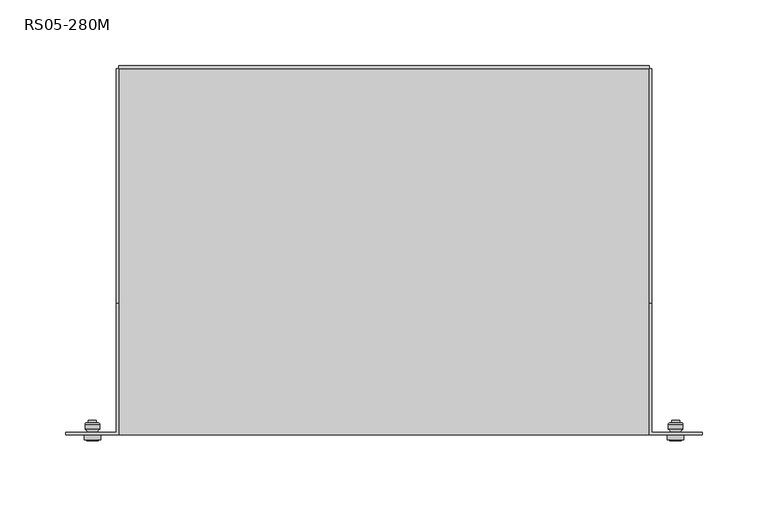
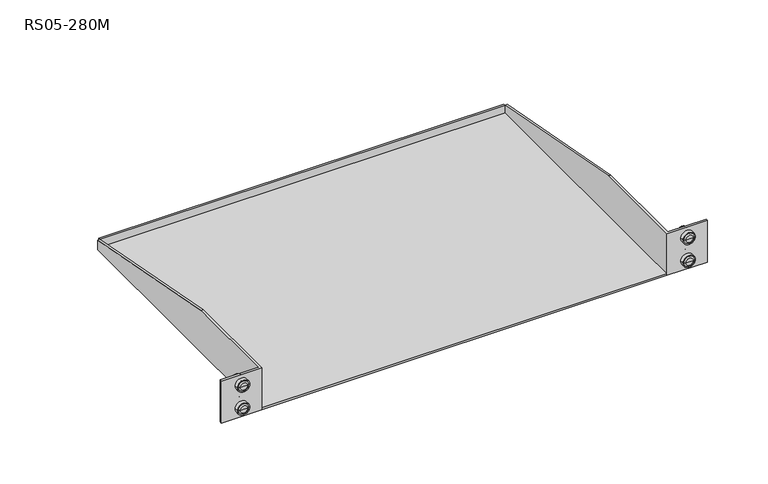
"""IFC4 building model written with IfcOpenShell, lengths in millimetres: proxy geometry, Полки консольные : RS05-280M."""

from ifc_helpers import new_model, si_unit, point, frame, origin, place, context, project, spatial, polyline, circle_curve, ellipse_curve, trimmed, outline, extrude, faceted_brep, source, transform, mapped, element, save
from ifc_brep_helpers import plane_surface, cylinder_surface, revolved_surface, advanced_brep


def rs05_280m_469b61f3(model_context):
    return source(origin(), model_context, "Body", "SolidModel", [
        advanced_brep(
        [(221.0, -144.3500066, 34.0), (217.5000052, -144.3500066, 34.0), (224.4999948, -144.3500066, 34.0), (223.9999986, -128.7499958, 34.0), (218.0000014, -128.7499958, 34.0), (221.0, -128.7499958, 34.0), (223.9999986, -130.7999933, 34.0), (218.0000014, -130.7999933, 34.0), (225.4999942, -130.7999933, 34.0), (216.5000058, -130.7999933, 34.0), (226.4999948, -131.7999994, 34.0), (215.5000052, -131.7999994, 34.0), (226.4999962, -135.7999994, 34.0), (215.5000038, -135.7999994, 34.0), (225.1733431, -137.9999959, 34.0), (216.8266569, -137.9999959, 34.0), (227.2500015, -140.0, 34.0), (214.7499985, -140.0, 34.0), (216.8266569, -140.0, 34.0), (225.1733431, -140.0, 34.0), (227.2500015, -143.4999996, 34.0), (214.7499985, -143.4999996, 34.0), (226.3781586, -143.4999996, 34.0), (215.6218414, -143.4999996, 34.0)],
        [
            (0, 1),
            (1, 2, circle_curve(frame((221.0, -144.3500066, 34.0), z_axis=(0.0, -1.0, 0.0), x_axis=(-1.0, 0.0, 0.0)), 3.4999948)),
            (2, 0),
            (2, 1, circle_curve(frame((221.0, -144.3500066, 34.0), z_axis=(0.0, -1.0, 0.0), x_axis=(-1.0, 0.0, 0.0)), 3.4999948)),
            (3, 4, circle_curve(frame((221.0, -128.7499958, 34.0), z_axis=(0.0, 1.0, 0.0), x_axis=(-1.0, 0.0, 0.0)), 2.9999986)),
            (4, 5),
            (5, 3),
            (4, 3, circle_curve(frame((221.0, -128.7499958, 34.0), z_axis=(0.0, 1.0, 0.0), x_axis=(-1.0, 0.0, 0.0)), 2.9999986)),
            (6, 7, circle_curve(frame((221.0, -130.7999933, 34.0), z_axis=(0.0, 1.0, 0.0), x_axis=(-1.0, 0.0, 0.0)), 2.9999986)),
            (7, 4),
            (3, 6),
            (7, 6, circle_curve(frame((221.0, -130.7999933, 34.0), z_axis=(0.0, 1.0, 0.0), x_axis=(-1.0, 0.0, 0.0)), 2.9999986)),
            (8, 9, circle_curve(frame((221.0, -130.7999933, 34.0), z_axis=(0.0, 1.0, 0.0), x_axis=(-1.0, 0.0, 0.0)), 4.4999942)),
            (9, 7),
            (6, 8),
            (9, 8, circle_curve(frame((221.0, -130.7999933, 34.0), z_axis=(0.0, 1.0, 0.0), x_axis=(-1.0, 0.0, 0.0)), 4.4999942)),
            (10, 11, circle_curve(frame((221.0, -131.7999994, 34.0), z_axis=(0.0, 1.0, 0.0), x_axis=(-1.0, 0.0, 0.0)), 5.4999948)),
            (11, 9, circle_curve(frame((216.5000052, -131.7999994, 34.0), z_axis=(0.0, 0.0, -1.0), x_axis=(1.0, 0.0, 0.0)), 1.0)),
            (8, 10, circle_curve(frame((225.4999948, -131.7999994, 34.0), z_axis=(0.0, 0.0, -1.0), x_axis=(-1.0, 0.0, 0.0)), 1.0)),
            (11, 10, circle_curve(frame((221.0, -131.7999994, 34.0), z_axis=(0.0, 1.0, 0.0), x_axis=(-1.0, 0.0, 0.0)), 5.4999948)),
            (12, 13, circle_curve(frame((221.0, -135.7999994, 34.0), z_axis=(0.0, 1.0, 0.0), x_axis=(-1.0, 0.0, 0.0)), 5.4999962)),
            (13, 11),
            (10, 12),
            (13, 12, circle_curve(frame((221.0, -135.7999994, 34.0), z_axis=(0.0, 1.0, 0.0), x_axis=(-1.0, 0.0, 0.0)), 5.4999962)),
            (14, 15, circle_curve(frame((221.0, -137.9999959, 34.0), z_axis=(0.0, 1.0, 0.0), x_axis=(-1.0, 0.0, 0.0)), 4.1733431)),
            (15, 13, circle_curve(frame((215.5000052, -137.2999994, 34.0), z_axis=(0.0, 0.0, 1.0), x_axis=(1.0, 0.0, 0.0)), 1.5)),
            (12, 14, circle_curve(frame((226.4999948, -137.2999994, 34.0), z_axis=(0.0, 0.0, 1.0), x_axis=(-1.0, 0.0, 0.0)), 1.5)),
            (15, 14, circle_curve(frame((221.0, -137.9999959, 34.0), z_axis=(0.0, 1.0, 0.0), x_axis=(-1.0, 0.0, 0.0)), 4.1733431)),
            (16, 17, circle_curve(frame((221.0, -140.0, 34.0), z_axis=(0.0, 1.0, 0.0), x_axis=(-1.0, 0.0, 0.0)), 6.2500015)),
            (17, 18),
            (18, 19, circle_curve(frame((221.0, -140.0, 34.0), z_axis=(0.0, -1.0, 0.0), x_axis=(-1.0, 0.0, 0.0)), 4.1733431)),
            (19, 16),
            (17, 16, circle_curve(frame((221.0, -140.0, 34.0), z_axis=(0.0, 1.0, 0.0), x_axis=(-1.0, 0.0, 0.0)), 6.2500015)),
            (19, 18, circle_curve(frame((221.0, -140.0, 34.0), z_axis=(0.0, -1.0, 0.0), x_axis=(-1.0, 0.0, 0.0)), 4.1733431)),
            (20, 21, circle_curve(frame((221.0, -143.4999996, 34.0), z_axis=(0.0, 1.0, 0.0), x_axis=(-1.0, 0.0, 0.0)), 6.2500015)),
            (21, 17),
            (16, 20),
            (21, 20, circle_curve(frame((221.0, -143.4999996, 34.0), z_axis=(0.0, 1.0, 0.0), x_axis=(-1.0, 0.0, 0.0)), 6.2500015)),
            (22, 23, circle_curve(frame((221.0, -143.4999996, 34.0), z_axis=(0.0, 1.0, 0.0), x_axis=(-1.0, 0.0, 0.0)), 5.3781586)),
            (23, 21),
            (20, 22),
            (23, 22, circle_curve(frame((221.0, -143.4999996, 34.0), z_axis=(0.0, 1.0, 0.0), x_axis=(-1.0, 0.0, 0.0)), 5.3781586)),
            (1, 23, circle_curve(frame((217.5000052, -141.8499994, 34.0), z_axis=(0.0, 0.0, -1.0), x_axis=(1.0, 0.0, 0.0)), 2.5)),
            (22, 2, circle_curve(frame((224.4999948, -141.8499994, 34.0), z_axis=(0.0, 0.0, -1.0), x_axis=(-1.0, 0.0, 0.0)), 2.5)),
            (18, 15),
            (14, 19),
        ],
        [
            plane_surface(frame((221.0, -144.3500066, 34.0), z_axis=(0.0, -1.0, 0.0), x_axis=(-1.0, 0.0, 0.0))),
            plane_surface(frame((221.0, -128.7499958, 34.0), z_axis=(0.0, 1.0, 0.0), x_axis=(-1.0, 0.0, 0.0))),
            cylinder_surface(frame((221.0, 1860.0, 34.0), z_axis=(0.0, -1.0, 0.0), x_axis=(-1.0, 0.0, 0.0)), 2.9999986),
            plane_surface(frame((221.0, -130.7999933, 34.0), z_axis=(0.0, 1.0, 0.0), x_axis=(-1.0, 0.0, 0.0))),
            revolved_surface(trimmed(ellipse_curve(frame((216.5000052, -131.7999994, 34.0), z_axis=(0.0, 0.0, 1.0), x_axis=(1.0, 0.0, 0.0)), 1.0, 1.0), [point((216.5000052, -130.7999994, 34.0))], [point((215.5000052, -131.7999994, 34.0))], True, "CARTESIAN"), (221.0, 1860.0, 34.0), (0.0, -1.0, 0.0)),
            cylinder_surface(frame((221.0, 1860.0, 34.0), z_axis=(0.0, -1.0, 0.0), x_axis=(-1.0, 0.0, 0.0)), 5.4999962),
            revolved_surface(trimmed(ellipse_curve(frame((215.5000052, -137.2999994, 34.0), z_axis=(0.0, 0.0, -1.0), x_axis=(1.0, 0.0, 0.0)), 1.5, 1.5), [point((215.5000038, -135.7999994, 34.0))], [point((216.8266569, -137.9999959, 34.0))], True, "CARTESIAN"), (221.0, 1860.0, 34.0), (0.0, -1.0, 0.0)),
            plane_surface(frame((221.0, -140.0, 34.0), z_axis=(0.0, 1.0, 0.0), x_axis=(-1.0, 0.0, 0.0))),
            cylinder_surface(frame((221.0, 1860.0, 34.0), z_axis=(0.0, -1.0, 0.0), x_axis=(-1.0, 0.0, 0.0)), 6.2500015),
            plane_surface(frame((221.0, -143.4999996, 34.0), z_axis=(0.0, -1.0, 0.0), x_axis=(-1.0, 0.0, 0.0))),
            revolved_surface(trimmed(ellipse_curve(frame((217.5000052, -141.8499994, 34.0), z_axis=(0.0, 0.0, 1.0), x_axis=(1.0, 0.0, 0.0)), 2.5, 2.5), [point((215.6218414, -143.4999996, 34.0))], [point((217.5000052, -144.3499994, 34.0))], True, "CARTESIAN"), (221.0, 1860.0, 34.0), (0.0, -1.0, 0.0)),
            cylinder_surface(frame((221.0, 1860.0, 34.0), z_axis=(0.0, -1.0, 0.0), x_axis=(-1.0, 0.0, 0.0)), 4.1733431),
        ],
        [
            (0, [[1, 2, 3]]),
            (0, [[-3, 4, -1]]),
            (1, [[5, 6, 7]]),
            (1, [[8, -7, -6]]),
            (2, [[9, 10, -5, 11]]),
            (2, [[12, -11, -8, -10]]),
            (3, [[13, 14, -9, 15]]),
            (3, [[16, -15, -12, -14]]),
            (4, [[17, 18, -13, 19]]),
            (4, [[20, -19, -16, -18]]),
            (5, [[21, 22, -17, 23]]),
            (5, [[24, -23, -20, -22]]),
            (6, [[25, 26, -21, 27]]),
            (6, [[28, -27, -24, -26]]),
            (7, [[29, 30, 31, 32]]),
            (7, [[33, -32, 34, -30]]),
            (8, [[35, 36, -29, 37]]),
            (8, [[38, -37, -33, -36]]),
            (9, [[39, 40, -35, 41]]),
            (9, [[42, -41, -38, -40]]),
            (10, [[-2, 43, -39, 44]]),
            (10, [[-4, -44, -42, -43]]),
            (11, [[-31, 45, -25, 46]]),
            (11, [[-34, -46, -28, -45]]),
        ],
    ),
        advanced_brep(
        [(-221.0, -144.3500066, 34.0), (-224.4999948, -144.3500066, 34.0), (-217.5000052, -144.3500066, 34.0), (-218.0000014, -128.7499958, 34.0), (-223.9999986, -128.7499958, 34.0), (-221.0, -128.7499958, 34.0), (-218.0000014, -130.7999933, 34.0), (-223.9999986, -130.7999933, 34.0), (-216.5000058, -130.7999933, 34.0), (-225.4999942, -130.7999933, 34.0), (-215.5000052, -131.7999994, 34.0), (-226.4999948, -131.7999994, 34.0), (-215.5000038, -135.7999994, 34.0), (-226.4999962, -135.7999994, 34.0), (-216.8266569, -137.9999959, 34.0), (-225.1733431, -137.9999959, 34.0), (-214.7499985, -140.0, 34.0), (-227.2500015, -140.0, 34.0), (-225.1733431, -140.0, 34.0), (-216.8266569, -140.0, 34.0), (-214.7499985, -143.4999996, 34.0), (-227.2500015, -143.4999996, 34.0), (-215.6218414, -143.4999996, 34.0), (-226.3781586, -143.4999996, 34.0)],
        [
            (0, 1),
            (1, 2, circle_curve(frame((-221.0, -144.3500066, 34.0), z_axis=(0.0, -1.0, 0.0), x_axis=(-1.0, 0.0, 0.0)), 3.4999948)),
            (2, 0),
            (2, 1, circle_curve(frame((-221.0, -144.3500066, 34.0), z_axis=(0.0, -1.0, 0.0), x_axis=(-1.0, 0.0, 0.0)), 3.4999948)),
            (3, 4, circle_curve(frame((-221.0, -128.7499958, 34.0), z_axis=(0.0, 1.0, 0.0), x_axis=(-1.0, 0.0, 0.0)), 2.9999986)),
            (4, 5),
            (5, 3),
            (4, 3, circle_curve(frame((-221.0, -128.7499958, 34.0), z_axis=(0.0, 1.0, 0.0), x_axis=(-1.0, 0.0, 0.0)), 2.9999986)),
            (6, 7, circle_curve(frame((-221.0, -130.7999933, 34.0), z_axis=(0.0, 1.0, 0.0), x_axis=(-1.0, 0.0, 0.0)), 2.9999986)),
            (7, 4),
            (3, 6),
            (7, 6, circle_curve(frame((-221.0, -130.7999933, 34.0), z_axis=(0.0, 1.0, 0.0), x_axis=(-1.0, 0.0, 0.0)), 2.9999986)),
            (8, 9, circle_curve(frame((-221.0, -130.7999933, 34.0), z_axis=(0.0, 1.0, 0.0), x_axis=(-1.0, 0.0, 0.0)), 4.4999942)),
            (9, 7),
            (6, 8),
            (9, 8, circle_curve(frame((-221.0, -130.7999933, 34.0), z_axis=(0.0, 1.0, 0.0), x_axis=(-1.0, 0.0, 0.0)), 4.4999942)),
            (10, 11, circle_curve(frame((-221.0, -131.7999994, 34.0), z_axis=(0.0, 1.0, 0.0), x_axis=(-1.0, 0.0, 0.0)), 5.4999948)),
            (11, 9, circle_curve(frame((-225.4999948, -131.7999994, 34.0), z_axis=(0.0, 0.0, -1.0), x_axis=(1.0, 0.0, 0.0)), 1.0)),
            (8, 10, circle_curve(frame((-216.5000052, -131.7999994, 34.0), z_axis=(0.0, 0.0, -1.0), x_axis=(-1.0, 0.0, 0.0)), 1.0)),
            (11, 10, circle_curve(frame((-221.0, -131.7999994, 34.0), z_axis=(0.0, 1.0, 0.0), x_axis=(-1.0, 0.0, 0.0)), 5.4999948)),
            (12, 13, circle_curve(frame((-221.0, -135.7999994, 34.0), z_axis=(0.0, 1.0, 0.0), x_axis=(-1.0, 0.0, 0.0)), 5.4999962)),
            (13, 11),
            (10, 12),
            (13, 12, circle_curve(frame((-221.0, -135.7999994, 34.0), z_axis=(0.0, 1.0, 0.0), x_axis=(-1.0, 0.0, 0.0)), 5.4999962)),
            (14, 15, circle_curve(frame((-221.0, -137.9999959, 34.0), z_axis=(0.0, 1.0, 0.0), x_axis=(-1.0, 0.0, 0.0)), 4.1733431)),
            (15, 13, circle_curve(frame((-226.4999948, -137.2999994, 34.0), z_axis=(0.0, 0.0, 1.0), x_axis=(1.0, 0.0, 0.0)), 1.5)),
            (12, 14, circle_curve(frame((-215.5000052, -137.2999994, 34.0), z_axis=(0.0, 0.0, 1.0), x_axis=(-1.0, 0.0, 0.0)), 1.5)),
            (15, 14, circle_curve(frame((-221.0, -137.9999959, 34.0), z_axis=(0.0, 1.0, 0.0), x_axis=(-1.0, 0.0, 0.0)), 4.1733431)),
            (16, 17, circle_curve(frame((-221.0, -140.0, 34.0), z_axis=(0.0, 1.0, 0.0), x_axis=(-1.0, 0.0, 0.0)), 6.2500015)),
            (17, 18),
            (18, 19, circle_curve(frame((-221.0, -140.0, 34.0), z_axis=(0.0, -1.0, 0.0), x_axis=(-1.0, 0.0, 0.0)), 4.1733431)),
            (19, 16),
            (17, 16, circle_curve(frame((-221.0, -140.0, 34.0), z_axis=(0.0, 1.0, 0.0), x_axis=(-1.0, 0.0, 0.0)), 6.2500015)),
            (19, 18, circle_curve(frame((-221.0, -140.0, 34.0), z_axis=(0.0, -1.0, 0.0), x_axis=(-1.0, 0.0, 0.0)), 4.1733431)),
            (20, 21, circle_curve(frame((-221.0, -143.4999996, 34.0), z_axis=(0.0, 1.0, 0.0), x_axis=(-1.0, 0.0, 0.0)), 6.2500015)),
            (21, 17),
            (16, 20),
            (21, 20, circle_curve(frame((-221.0, -143.4999996, 34.0), z_axis=(0.0, 1.0, 0.0), x_axis=(-1.0, 0.0, 0.0)), 6.2500015)),
            (22, 23, circle_curve(frame((-221.0, -143.4999996, 34.0), z_axis=(0.0, 1.0, 0.0), x_axis=(-1.0, 0.0, 0.0)), 5.3781586)),
            (23, 21),
            (20, 22),
            (23, 22, circle_curve(frame((-221.0, -143.4999996, 34.0), z_axis=(0.0, 1.0, 0.0), x_axis=(-1.0, 0.0, 0.0)), 5.3781586)),
            (1, 23, circle_curve(frame((-224.4999948, -141.8499994, 34.0), z_axis=(0.0, 0.0, -1.0), x_axis=(1.0, 0.0, 0.0)), 2.5)),
            (22, 2, circle_curve(frame((-217.5000052, -141.8499994, 34.0), z_axis=(0.0, 0.0, -1.0), x_axis=(-1.0, 0.0, 0.0)), 2.5)),
            (18, 15),
            (14, 19),
        ],
        [
            plane_surface(frame((-221.0, -144.3500066, 34.0), z_axis=(0.0, -1.0, 0.0), x_axis=(-1.0, 0.0, 0.0))),
            plane_surface(frame((-221.0, -128.7499958, 34.0), z_axis=(0.0, 1.0, 0.0), x_axis=(-1.0, 0.0, 0.0))),
            cylinder_surface(frame((-221.0, 1860.0, 34.0), z_axis=(0.0, -1.0, 0.0), x_axis=(-1.0, 0.0, 0.0)), 2.9999986),
            plane_surface(frame((-221.0, -130.7999933, 34.0), z_axis=(0.0, 1.0, 0.0), x_axis=(-1.0, 0.0, 0.0))),
            revolved_surface(trimmed(ellipse_curve(frame((-225.4999948, -131.7999994, 34.0), z_axis=(0.0, 0.0, 1.0), x_axis=(1.0, 0.0, 0.0)), 1.0, 1.0), [point((-225.4999948, -130.7999994, 34.0))], [point((-226.4999948, -131.7999994, 34.0))], True, "CARTESIAN"), (-221.0, 1860.0, 34.0), (0.0, -1.0, 0.0)),
            cylinder_surface(frame((-221.0, 1860.0, 34.0), z_axis=(0.0, -1.0, 0.0), x_axis=(-1.0, 0.0, 0.0)), 5.4999962),
            revolved_surface(trimmed(ellipse_curve(frame((-226.4999948, -137.2999994, 34.0), z_axis=(0.0, 0.0, -1.0), x_axis=(1.0, 0.0, 0.0)), 1.5, 1.5), [point((-226.4999962, -135.7999994, 34.0))], [point((-225.1733431, -137.9999959, 34.0))], True, "CARTESIAN"), (-221.0, 1860.0, 34.0), (0.0, -1.0, 0.0)),
            plane_surface(frame((-221.0, -140.0, 34.0), z_axis=(0.0, 1.0, 0.0), x_axis=(-1.0, 0.0, 0.0))),
            cylinder_surface(frame((-221.0, 1860.0, 34.0), z_axis=(0.0, -1.0, 0.0), x_axis=(-1.0, 0.0, 0.0)), 6.2500015),
            plane_surface(frame((-221.0, -143.4999996, 34.0), z_axis=(0.0, -1.0, 0.0), x_axis=(-1.0, 0.0, 0.0))),
            revolved_surface(trimmed(ellipse_curve(frame((-224.4999948, -141.8499994, 34.0), z_axis=(0.0, 0.0, 1.0), x_axis=(1.0, 0.0, 0.0)), 2.5, 2.5), [point((-226.3781586, -143.4999996, 34.0))], [point((-224.4999948, -144.3499994, 34.0))], True, "CARTESIAN"), (-221.0, 1860.0, 34.0), (0.0, -1.0, 0.0)),
            cylinder_surface(frame((-221.0, 1860.0, 34.0), z_axis=(0.0, -1.0, 0.0), x_axis=(-1.0, 0.0, 0.0)), 4.1733431),
        ],
        [
            (0, [[1, 2, 3]]),
            (0, [[-3, 4, -1]]),
            (1, [[5, 6, 7]]),
            (1, [[8, -7, -6]]),
            (2, [[9, 10, -5, 11]]),
            (2, [[12, -11, -8, -10]]),
            (3, [[13, 14, -9, 15]]),
            (3, [[16, -15, -12, -14]]),
            (4, [[17, 18, -13, 19]]),
            (4, [[20, -19, -16, -18]]),
            (5, [[21, 22, -17, 23]]),
            (5, [[24, -23, -20, -22]]),
            (6, [[25, 26, -21, 27]]),
            (6, [[28, -27, -24, -26]]),
            (7, [[29, 30, 31, 32]]),
            (7, [[33, -32, 34, -30]]),
            (8, [[35, 36, -29, 37]]),
            (8, [[38, -37, -33, -36]]),
            (9, [[39, 40, -35, 41]]),
            (9, [[42, -41, -38, -40]]),
            (10, [[-2, 43, -39, 44]]),
            (10, [[-4, -44, -42, -43]]),
            (11, [[-31, 45, -25, 46]]),
            (11, [[-34, -46, -28, -45]]),
        ],
    ),
        advanced_brep(
        [(221.0, -144.3500066, 10.0), (217.5000052, -144.3500066, 10.0), (224.4999948, -144.3500066, 10.0), (223.9999986, -128.7499958, 10.0), (218.0000014, -128.7499958, 10.0), (221.0, -128.7499958, 10.0), (223.9999986, -130.7999933, 10.0), (218.0000014, -130.7999933, 10.0), (225.4999942, -130.7999933, 10.0), (216.5000058, -130.7999933, 10.0), (226.4999948, -131.7999994, 10.0), (215.5000052, -131.7999994, 10.0), (226.4999962, -135.7999994, 10.0), (215.5000038, -135.7999994, 10.0), (225.1733431, -137.9999959, 10.0), (216.8266569, -137.9999959, 10.0), (227.2500015, -140.0, 10.0), (214.7499985, -140.0, 10.0), (216.8266569, -140.0, 10.0), (225.1733431, -140.0, 10.0), (227.2500015, -143.4999996, 10.0), (214.7499985, -143.4999996, 10.0), (226.3781586, -143.4999996, 10.0), (215.6218414, -143.4999996, 10.0)],
        [
            (0, 1),
            (1, 2, circle_curve(frame((221.0, -144.3500066, 10.0), z_axis=(0.0, -1.0, 0.0), x_axis=(-1.0, 0.0, 0.0)), 3.4999948)),
            (2, 0),
            (2, 1, circle_curve(frame((221.0, -144.3500066, 10.0), z_axis=(0.0, -1.0, 0.0), x_axis=(-1.0, 0.0, 0.0)), 3.4999948)),
            (3, 4, circle_curve(frame((221.0, -128.7499958, 10.0), z_axis=(0.0, 1.0, 0.0), x_axis=(-1.0, 0.0, 0.0)), 2.9999986)),
            (4, 5),
            (5, 3),
            (4, 3, circle_curve(frame((221.0, -128.7499958, 10.0), z_axis=(0.0, 1.0, 0.0), x_axis=(-1.0, 0.0, 0.0)), 2.9999986)),
            (6, 7, circle_curve(frame((221.0, -130.7999933, 10.0), z_axis=(0.0, 1.0, 0.0), x_axis=(-1.0, 0.0, 0.0)), 2.9999986)),
            (7, 4),
            (3, 6),
            (7, 6, circle_curve(frame((221.0, -130.7999933, 10.0), z_axis=(0.0, 1.0, 0.0), x_axis=(-1.0, 0.0, 0.0)), 2.9999986)),
            (8, 9, circle_curve(frame((221.0, -130.7999933, 10.0), z_axis=(0.0, 1.0, 0.0), x_axis=(-1.0, 0.0, 0.0)), 4.4999942)),
            (9, 7),
            (6, 8),
            (9, 8, circle_curve(frame((221.0, -130.7999933, 10.0), z_axis=(0.0, 1.0, 0.0), x_axis=(-1.0, 0.0, 0.0)), 4.4999942)),
            (10, 11, circle_curve(frame((221.0, -131.7999994, 10.0), z_axis=(0.0, 1.0, 0.0), x_axis=(-1.0, 0.0, 0.0)), 5.4999948)),
            (11, 9, circle_curve(frame((216.5000052, -131.7999994, 10.0), z_axis=(0.0, 0.0, -1.0), x_axis=(1.0, 0.0, 0.0)), 1.0)),
            (8, 10, circle_curve(frame((225.4999948, -131.7999994, 10.0), z_axis=(0.0, 0.0, -1.0), x_axis=(-1.0, 0.0, 0.0)), 1.0)),
            (11, 10, circle_curve(frame((221.0, -131.7999994, 10.0), z_axis=(0.0, 1.0, 0.0), x_axis=(-1.0, 0.0, 0.0)), 5.4999948)),
            (12, 13, circle_curve(frame((221.0, -135.7999994, 10.0), z_axis=(0.0, 1.0, 0.0), x_axis=(-1.0, 0.0, 0.0)), 5.4999962)),
            (13, 11),
            (10, 12),
            (13, 12, circle_curve(frame((221.0, -135.7999994, 10.0), z_axis=(0.0, 1.0, 0.0), x_axis=(-1.0, 0.0, 0.0)), 5.4999962)),
            (14, 15, circle_curve(frame((221.0, -137.9999959, 10.0), z_axis=(0.0, 1.0, 0.0), x_axis=(-1.0, 0.0, 0.0)), 4.1733431)),
            (15, 13, circle_curve(frame((215.5000052, -137.2999994, 10.0), z_axis=(0.0, 0.0, 1.0), x_axis=(1.0, 0.0, 0.0)), 1.5)),
            (12, 14, circle_curve(frame((226.4999948, -137.2999994, 10.0), z_axis=(0.0, 0.0, 1.0), x_axis=(-1.0, 0.0, 0.0)), 1.5)),
            (15, 14, circle_curve(frame((221.0, -137.9999959, 10.0), z_axis=(0.0, 1.0, 0.0), x_axis=(-1.0, 0.0, 0.0)), 4.1733431)),
            (16, 17, circle_curve(frame((221.0, -140.0, 10.0), z_axis=(0.0, 1.0, 0.0), x_axis=(-1.0, 0.0, 0.0)), 6.2500015)),
            (17, 18),
            (18, 19, circle_curve(frame((221.0, -140.0, 10.0), z_axis=(0.0, -1.0, 0.0), x_axis=(-1.0, 0.0, 0.0)), 4.1733431)),
            (19, 16),
            (17, 16, circle_curve(frame((221.0, -140.0, 10.0), z_axis=(0.0, 1.0, 0.0), x_axis=(-1.0, 0.0, 0.0)), 6.2500015)),
            (19, 18, circle_curve(frame((221.0, -140.0, 10.0), z_axis=(0.0, -1.0, 0.0), x_axis=(-1.0, 0.0, 0.0)), 4.1733431)),
            (20, 21, circle_curve(frame((221.0, -143.4999996, 10.0), z_axis=(0.0, 1.0, 0.0), x_axis=(-1.0, 0.0, 0.0)), 6.2500015)),
            (21, 17),
            (16, 20),
            (21, 20, circle_curve(frame((221.0, -143.4999996, 10.0), z_axis=(0.0, 1.0, 0.0), x_axis=(-1.0, 0.0, 0.0)), 6.2500015)),
            (22, 23, circle_curve(frame((221.0, -143.4999996, 10.0), z_axis=(0.0, 1.0, 0.0), x_axis=(-1.0, 0.0, 0.0)), 5.3781586)),
            (23, 21),
            (20, 22),
            (23, 22, circle_curve(frame((221.0, -143.4999996, 10.0), z_axis=(0.0, 1.0, 0.0), x_axis=(-1.0, 0.0, 0.0)), 5.3781586)),
            (1, 23, circle_curve(frame((217.5000052, -141.8499994, 10.0), z_axis=(0.0, 0.0, -1.0), x_axis=(1.0, 0.0, 0.0)), 2.5)),
            (22, 2, circle_curve(frame((224.4999948, -141.8499994, 10.0), z_axis=(0.0, 0.0, -1.0), x_axis=(-1.0, 0.0, 0.0)), 2.5)),
            (18, 15),
            (14, 19),
        ],
        [
            plane_surface(frame((221.0, -144.3500066, 10.0), z_axis=(0.0, -1.0, 0.0), x_axis=(-1.0, 0.0, 0.0))),
            plane_surface(frame((221.0, -128.7499958, 10.0), z_axis=(0.0, 1.0, 0.0), x_axis=(-1.0, 0.0, 0.0))),
            cylinder_surface(frame((221.0, 1860.0, 10.0), z_axis=(0.0, -1.0, 0.0), x_axis=(-1.0, 0.0, 0.0)), 2.9999986),
            plane_surface(frame((221.0, -130.7999933, 10.0), z_axis=(0.0, 1.0, 0.0), x_axis=(-1.0, 0.0, 0.0))),
            revolved_surface(trimmed(ellipse_curve(frame((216.5000052, -131.7999994, 10.0), z_axis=(0.0, 0.0, 1.0), x_axis=(1.0, 0.0, 0.0)), 1.0, 1.0), [point((216.5000052, -130.7999994, 10.0))], [point((215.5000052, -131.7999994, 10.0))], True, "CARTESIAN"), (221.0, 1860.0, 10.0), (0.0, -1.0, 0.0)),
            cylinder_surface(frame((221.0, 1860.0, 10.0), z_axis=(0.0, -1.0, 0.0), x_axis=(-1.0, 0.0, 0.0)), 5.4999962),
            revolved_surface(trimmed(ellipse_curve(frame((215.5000052, -137.2999994, 10.0), z_axis=(0.0, 0.0, -1.0), x_axis=(1.0, 0.0, 0.0)), 1.5, 1.5), [point((215.5000038, -135.7999994, 10.0))], [point((216.8266569, -137.9999959, 10.0))], True, "CARTESIAN"), (221.0, 1860.0, 10.0), (0.0, -1.0, 0.0)),
            plane_surface(frame((221.0, -140.0, 10.0), z_axis=(0.0, 1.0, 0.0), x_axis=(-1.0, 0.0, 0.0))),
            cylinder_surface(frame((221.0, 1860.0, 10.0), z_axis=(0.0, -1.0, 0.0), x_axis=(-1.0, 0.0, 0.0)), 6.2500015),
            plane_surface(frame((221.0, -143.4999996, 10.0), z_axis=(0.0, -1.0, 0.0), x_axis=(-1.0, 0.0, 0.0))),
            revolved_surface(trimmed(ellipse_curve(frame((217.5000052, -141.8499994, 10.0), z_axis=(0.0, 0.0, 1.0), x_axis=(1.0, 0.0, 0.0)), 2.5, 2.5), [point((215.6218414, -143.4999996, 10.0))], [point((217.5000052, -144.3499994, 10.0))], True, "CARTESIAN"), (221.0, 1860.0, 10.0), (0.0, -1.0, 0.0)),
            cylinder_surface(frame((221.0, 1860.0, 10.0), z_axis=(0.0, -1.0, 0.0), x_axis=(-1.0, 0.0, 0.0)), 4.1733431),
        ],
        [
            (0, [[1, 2, 3]]),
            (0, [[-3, 4, -1]]),
            (1, [[5, 6, 7]]),
            (1, [[8, -7, -6]]),
            (2, [[9, 10, -5, 11]]),
            (2, [[12, -11, -8, -10]]),
            (3, [[13, 14, -9, 15]]),
            (3, [[16, -15, -12, -14]]),
            (4, [[17, 18, -13, 19]]),
            (4, [[20, -19, -16, -18]]),
            (5, [[21, 22, -17, 23]]),
            (5, [[24, -23, -20, -22]]),
            (6, [[25, 26, -21, 27]]),
            (6, [[28, -27, -24, -26]]),
            (7, [[29, 30, 31, 32]]),
            (7, [[33, -32, 34, -30]]),
            (8, [[35, 36, -29, 37]]),
            (8, [[38, -37, -33, -36]]),
            (9, [[39, 40, -35, 41]]),
            (9, [[42, -41, -38, -40]]),
            (10, [[-2, 43, -39, 44]]),
            (10, [[-4, -44, -42, -43]]),
            (11, [[-31, 45, -25, 46]]),
            (11, [[-34, -46, -28, -45]]),
        ],
    ),
        advanced_brep(
        [(-221.0, -144.3500066, 10.0), (-224.4999948, -144.3500066, 10.0), (-217.5000052, -144.3500066, 10.0), (-218.0000014, -128.7499958, 10.0), (-223.9999986, -128.7499958, 10.0), (-221.0, -128.7499958, 10.0), (-218.0000014, -130.7999933, 10.0), (-223.9999986, -130.7999933, 10.0), (-216.5000058, -130.7999933, 10.0), (-225.4999942, -130.7999933, 10.0), (-215.5000052, -131.7999994, 10.0), (-226.4999948, -131.7999994, 10.0), (-215.5000038, -135.7999994, 10.0), (-226.4999962, -135.7999994, 10.0), (-216.8266569, -137.9999959, 10.0), (-225.1733431, -137.9999959, 10.0), (-214.7499985, -140.0, 10.0), (-227.2500015, -140.0, 10.0), (-225.1733431, -140.0, 10.0), (-216.8266569, -140.0, 10.0), (-214.7499985, -143.4999996, 10.0), (-227.2500015, -143.4999996, 10.0), (-215.6218414, -143.4999996, 10.0), (-226.3781586, -143.4999996, 10.0)],
        [
            (0, 1),
            (1, 2, circle_curve(frame((-221.0, -144.3500066, 10.0), z_axis=(0.0, -1.0, 0.0), x_axis=(-1.0, 0.0, 0.0)), 3.4999948)),
            (2, 0),
            (2, 1, circle_curve(frame((-221.0, -144.3500066, 10.0), z_axis=(0.0, -1.0, 0.0), x_axis=(-1.0, 0.0, 0.0)), 3.4999948)),
            (3, 4, circle_curve(frame((-221.0, -128.7499958, 10.0), z_axis=(0.0, 1.0, 0.0), x_axis=(-1.0, 0.0, 0.0)), 2.9999986)),
            (4, 5),
            (5, 3),
            (4, 3, circle_curve(frame((-221.0, -128.7499958, 10.0), z_axis=(0.0, 1.0, 0.0), x_axis=(-1.0, 0.0, 0.0)), 2.9999986)),
            (6, 7, circle_curve(frame((-221.0, -130.7999933, 10.0), z_axis=(0.0, 1.0, 0.0), x_axis=(-1.0, 0.0, 0.0)), 2.9999986)),
            (7, 4),
            (3, 6),
            (7, 6, circle_curve(frame((-221.0, -130.7999933, 10.0), z_axis=(0.0, 1.0, 0.0), x_axis=(-1.0, 0.0, 0.0)), 2.9999986)),
            (8, 9, circle_curve(frame((-221.0, -130.7999933, 10.0), z_axis=(0.0, 1.0, 0.0), x_axis=(-1.0, 0.0, 0.0)), 4.4999942)),
            (9, 7),
            (6, 8),
            (9, 8, circle_curve(frame((-221.0, -130.7999933, 10.0), z_axis=(0.0, 1.0, 0.0), x_axis=(-1.0, 0.0, 0.0)), 4.4999942)),
            (10, 11, circle_curve(frame((-221.0, -131.7999994, 10.0), z_axis=(0.0, 1.0, 0.0), x_axis=(-1.0, 0.0, 0.0)), 5.4999948)),
            (11, 9, circle_curve(frame((-225.4999948, -131.7999994, 10.0), z_axis=(0.0, 0.0, -1.0), x_axis=(1.0, 0.0, 0.0)), 1.0)),
            (8, 10, circle_curve(frame((-216.5000052, -131.7999994, 10.0), z_axis=(0.0, 0.0, -1.0), x_axis=(-1.0, 0.0, 0.0)), 1.0)),
            (11, 10, circle_curve(frame((-221.0, -131.7999994, 10.0), z_axis=(0.0, 1.0, 0.0), x_axis=(-1.0, 0.0, 0.0)), 5.4999948)),
            (12, 13, circle_curve(frame((-221.0, -135.7999994, 10.0), z_axis=(0.0, 1.0, 0.0), x_axis=(-1.0, 0.0, 0.0)), 5.4999962)),
            (13, 11),
            (10, 12),
            (13, 12, circle_curve(frame((-221.0, -135.7999994, 10.0), z_axis=(0.0, 1.0, 0.0), x_axis=(-1.0, 0.0, 0.0)), 5.4999962)),
            (14, 15, circle_curve(frame((-221.0, -137.9999959, 10.0), z_axis=(0.0, 1.0, 0.0), x_axis=(-1.0, 0.0, 0.0)), 4.1733431)),
            (15, 13, circle_curve(frame((-226.4999948, -137.2999994, 10.0), z_axis=(0.0, 0.0, 1.0), x_axis=(1.0, 0.0, 0.0)), 1.5)),
            (12, 14, circle_curve(frame((-215.5000052, -137.2999994, 10.0), z_axis=(0.0, 0.0, 1.0), x_axis=(-1.0, 0.0, 0.0)), 1.5)),
            (15, 14, circle_curve(frame((-221.0, -137.9999959, 10.0), z_axis=(0.0, 1.0, 0.0), x_axis=(-1.0, 0.0, 0.0)), 4.1733431)),
            (16, 17, circle_curve(frame((-221.0, -140.0, 10.0), z_axis=(0.0, 1.0, 0.0), x_axis=(-1.0, 0.0, 0.0)), 6.2500015)),
            (17, 18),
            (18, 19, circle_curve(frame((-221.0, -140.0, 10.0), z_axis=(0.0, -1.0, 0.0), x_axis=(-1.0, 0.0, 0.0)), 4.1733431)),
            (19, 16),
            (17, 16, circle_curve(frame((-221.0, -140.0, 10.0), z_axis=(0.0, 1.0, 0.0), x_axis=(-1.0, 0.0, 0.0)), 6.2500015)),
            (19, 18, circle_curve(frame((-221.0, -140.0, 10.0), z_axis=(0.0, -1.0, 0.0), x_axis=(-1.0, 0.0, 0.0)), 4.1733431)),
            (20, 21, circle_curve(frame((-221.0, -143.4999996, 10.0), z_axis=(0.0, 1.0, 0.0), x_axis=(-1.0, 0.0, 0.0)), 6.2500015)),
            (21, 17),
            (16, 20),
            (21, 20, circle_curve(frame((-221.0, -143.4999996, 10.0), z_axis=(0.0, 1.0, 0.0), x_axis=(-1.0, 0.0, 0.0)), 6.2500015)),
            (22, 23, circle_curve(frame((-221.0, -143.4999996, 10.0), z_axis=(0.0, 1.0, 0.0), x_axis=(-1.0, 0.0, 0.0)), 5.3781586)),
            (23, 21),
            (20, 22),
            (23, 22, circle_curve(frame((-221.0, -143.4999996, 10.0), z_axis=(0.0, 1.0, 0.0), x_axis=(-1.0, 0.0, 0.0)), 5.3781586)),
            (1, 23, circle_curve(frame((-224.4999948, -141.8499994, 10.0), z_axis=(0.0, 0.0, -1.0), x_axis=(1.0, 0.0, 0.0)), 2.5)),
            (22, 2, circle_curve(frame((-217.5000052, -141.8499994, 10.0), z_axis=(0.0, 0.0, -1.0), x_axis=(-1.0, 0.0, 0.0)), 2.5)),
            (18, 15),
            (14, 19),
        ],
        [
            plane_surface(frame((-221.0, -144.3500066, 10.0), z_axis=(0.0, -1.0, 0.0), x_axis=(-1.0, 0.0, 0.0))),
            plane_surface(frame((-221.0, -128.7499958, 10.0), z_axis=(0.0, 1.0, 0.0), x_axis=(-1.0, 0.0, 0.0))),
            cylinder_surface(frame((-221.0, 1860.0, 10.0), z_axis=(0.0, -1.0, 0.0), x_axis=(-1.0, 0.0, 0.0)), 2.9999986),
            plane_surface(frame((-221.0, -130.7999933, 10.0), z_axis=(0.0, 1.0, 0.0), x_axis=(-1.0, 0.0, 0.0))),
            revolved_surface(trimmed(ellipse_curve(frame((-225.4999948, -131.7999994, 10.0), z_axis=(0.0, 0.0, 1.0), x_axis=(1.0, 0.0, 0.0)), 1.0, 1.0), [point((-225.4999948, -130.7999994, 10.0))], [point((-226.4999948, -131.7999994, 10.0))], True, "CARTESIAN"), (-221.0, 1860.0, 10.0), (0.0, -1.0, 0.0)),
            cylinder_surface(frame((-221.0, 1860.0, 10.0), z_axis=(0.0, -1.0, 0.0), x_axis=(-1.0, 0.0, 0.0)), 5.4999962),
            revolved_surface(trimmed(ellipse_curve(frame((-226.4999948, -137.2999994, 10.0), z_axis=(0.0, 0.0, -1.0), x_axis=(1.0, 0.0, 0.0)), 1.5, 1.5), [point((-226.4999962, -135.7999994, 10.0))], [point((-225.1733431, -137.9999959, 10.0))], True, "CARTESIAN"), (-221.0, 1860.0, 10.0), (0.0, -1.0, 0.0)),
            plane_surface(frame((-221.0, -140.0, 10.0), z_axis=(0.0, 1.0, 0.0), x_axis=(-1.0, 0.0, 0.0))),
            cylinder_surface(frame((-221.0, 1860.0, 10.0), z_axis=(0.0, -1.0, 0.0), x_axis=(-1.0, 0.0, 0.0)), 6.2500015),
            plane_surface(frame((-221.0, -143.4999996, 10.0), z_axis=(0.0, -1.0, 0.0), x_axis=(-1.0, 0.0, 0.0))),
            revolved_surface(trimmed(ellipse_curve(frame((-224.4999948, -141.8499994, 10.0), z_axis=(0.0, 0.0, 1.0), x_axis=(1.0, 0.0, 0.0)), 2.5, 2.5), [point((-226.3781586, -143.4999996, 10.0))], [point((-224.4999948, -144.3499994, 10.0))], True, "CARTESIAN"), (-221.0, 1860.0, 10.0), (0.0, -1.0, 0.0)),
            cylinder_surface(frame((-221.0, 1860.0, 10.0), z_axis=(0.0, -1.0, 0.0), x_axis=(-1.0, 0.0, 0.0)), 4.1733431),
        ],
        [
            (0, [[1, 2, 3]]),
            (0, [[-3, 4, -1]]),
            (1, [[5, 6, 7]]),
            (1, [[8, -7, -6]]),
            (2, [[9, 10, -5, 11]]),
            (2, [[12, -11, -8, -10]]),
            (3, [[13, 14, -9, 15]]),
            (3, [[16, -15, -12, -14]]),
            (4, [[17, 18, -13, 19]]),
            (4, [[20, -19, -16, -18]]),
            (5, [[21, 22, -17, 23]]),
            (5, [[24, -23, -20, -22]]),
            (6, [[25, 26, -21, 27]]),
            (6, [[28, -27, -24, -26]]),
            (7, [[29, 30, 31, 32]]),
            (7, [[33, -32, 34, -30]]),
            (8, [[35, 36, -29, 37]]),
            (8, [[38, -37, -33, -36]]),
            (9, [[39, 40, -35, 41]]),
            (9, [[42, -41, -38, -40]]),
            (10, [[-2, 43, -39, 44]]),
            (10, [[-4, -44, -42, -43]]),
            (11, [[-31, 45, -25, 46]]),
            (11, [[-34, -46, -28, -45]]),
        ],
    ),
        faceted_brep([(-201.0, 138.0, 0.0), (-201.0, 138.0, 10.0), (-201.0, -40.0, 44.0), (-201.0, -140.0, 44.0), (-201.0, -140.0, 0.0), (-203.0, -40.0, 44.0), (-203.0, 138.0, 10.0), (-203.0, 138.0, 0.0), (-203.0, -138.0, 0.0), (-203.0, -138.0, 44.0), (-241.0, -138.0, 44.0), (-241.0, -140.0, 44.0), (-241.0, -140.0, 0.0), (-241.0, -138.0, 0.0)], [[[0, 1, 2, 3, 4]], [[5, 6, 7, 8, 9]], [[1, 0, 7, 6]], [[3, 2, 5, 9, 10, 11]], [[4, 3, 11, 12]], [[0, 4, 12, 13, 8, 7]], [[2, 1, 6, 5]], [[10, 9, 8, 13]], [[11, 10, 13, 12]]]),
        faceted_brep([(241.0, -138.0, 44.0), (203.0, -138.0, 44.0), (203.0, -40.0, 44.0), (201.0, -40.0, 44.0), (201.0, -140.0, 44.0), (241.0, -140.0, 44.0), (241.0, -138.0, 0.0), (241.0, -140.0, 0.0), (201.0, -140.0, 0.0), (201.0, 138.0, 0.0), (203.0, 138.0, 0.0), (203.0, -138.0, 0.0), (201.0, 138.0, 10.0), (203.0, 138.0, 10.0)], [[[0, 1, 2, 3, 4, 5]], [[6, 7, 8, 9, 10, 11]], [[1, 0, 6, 11]], [[5, 4, 8, 7]], [[0, 5, 7, 6]], [[9, 8, 4, 3, 12]], [[10, 13, 2, 1, 11]], [[9, 12, 13, 10]], [[12, 3, 2, 13]]]),
        extrude(outline(polyline([(-140.0, 2.0), (138.0, 2.0), (138.0, 10.0), (140.0, 10.0), (140.0, 0.0), (-140.0, 0.0), (-140.0, 2.0)])), frame((-201.0, 0.0, 0.0), z_axis=(1.0, 0.0, 0.0), x_axis=(0.0, 1.0, 0.0)), (0.0, 0.0, 1.0), 402.0),
    ])


if __name__ == "__main__":
    model = new_model("IFC4")
    model_context = context("Model", 3, world=origin())
    ifc_project = project(units=[si_unit("LENGTHUNIT", "METRE", prefix="MILLI")], contexts=[model_context])
    site = spatial("IfcSite", under=ifc_project)
    building = spatial("IfcBuilding", under=site)
    placement = place(None, origin())
    rs05_280m_shape = rs05_280m_469b61f3(model_context)
    element("IfcBuildingElementProxy", 1, Name="Полки консольные : RS05-280M", ObjectType="Полки консольные : RS05-280M", at=placement, inside=building, context=model_context, shape_type="MappedRepresentation", body=[
        mapped(rs05_280m_shape, transform((0.0, 0.0, 0.0), x_axis=(1.0, 0.0, 0.0), y_axis=(0.0, 1.0, 0.0), z_axis=(0.0, 0.0, 1.0))),
    ])
    save(model, "model.ifc")
